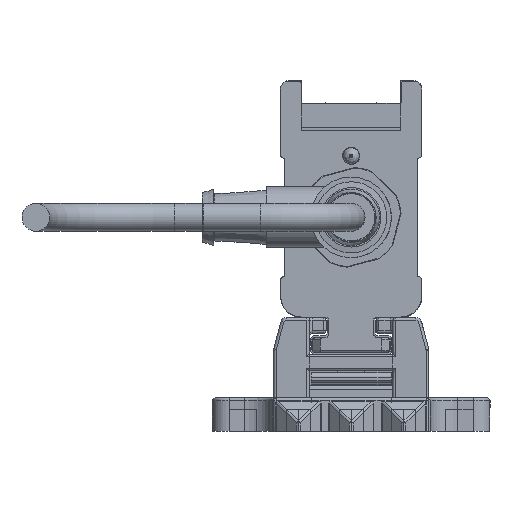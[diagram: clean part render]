
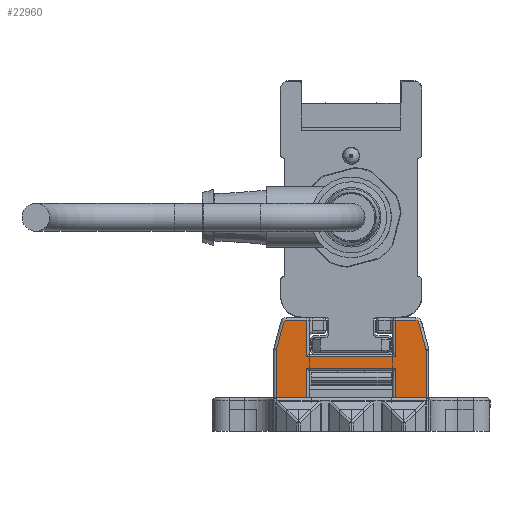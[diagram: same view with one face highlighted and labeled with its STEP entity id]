
A CAD part, left-side view. The second image highlights one B-rep face of the part: STEP entity #22960.
In plain terms, the highlighted planar face has unit normal (-1, 0, 0).
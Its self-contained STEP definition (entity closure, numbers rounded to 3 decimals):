
#22960=ADVANCED_FACE('', (#22970), #22980, .T.);
#93730=AXIS2_PLACEMENT_3D('Ax2Pl3d', #93740, #93750, #93760);
#93970=AXIS2_PLACEMENT_3D('Ax2Pl3d', #93980, #93990, #94000);
#98850=AXIS2_PLACEMENT_3D('Ax2Pl3d', #98860, #98870, #98880);
#103930=AXIS2_PLACEMENT_3D('Ax2Pl3d', #103940, #103950, #103960);
#113610=AXIS2_PLACEMENT_3D('Ax2Pl3d', #113620, #113630, #113640);
#322720=CARTESIAN_POINT('', (-747.669,-1126.345,
331.37));
#93740=CARTESIAN_POINT('HicPkt', (-747.669,-1125.379,
331.111));
#322730=CARTESIAN_POINT('', (-747.669,-1126.379,
331.111));
#322740=CARTESIAN_POINT('', (-747.669,-1125.037,336.255)
);
#322760=CARTESIAN_POINT('', (-747.669,-1125.037,336.255)
);
#322790=CARTESIAN_POINT('', (-747.669,-1124.554,
336.625));
#93980=CARTESIAN_POINT('HicPkt', (-747.669,-1124.554,
336.125));
#323010=CARTESIAN_POINT('', (-747.669,-1126.379,
322.625));
#323020=CARTESIAN_POINT('', (-747.669,-1120.881,
322.625));
#323030=CARTESIAN_POINT('', (-747.669,-1120.881,
322.625));
#323110=CARTESIAN_POINT('', (-747.669,-1104.881,
322.625));
#323120=CARTESIAN_POINT('', (-747.669,-1099.383,
322.625));
#323130=CARTESIAN_POINT('', (-747.669,-1099.383,
322.625));
#98860=CARTESIAN_POINT('HicPkt', (-747.669,-1101.209,
336.125));
#325600=CARTESIAN_POINT('', (-747.669,-1100.726,
336.255));
#325610=CARTESIAN_POINT('', (-747.669,-1101.209,
336.625));
#325620=CARTESIAN_POINT('', (-747.669,-1120.881,
330.025));
#325630=CARTESIAN_POINT('', (-747.669,-1104.881,330.025)
);
#325640=CARTESIAN_POINT('', (-747.669,-1120.881,
330.025));
#325800=CARTESIAN_POINT('', (-747.669,-1120.881,
328.005));
#325810=CARTESIAN_POINT('', (-747.669,-1104.881,
328.005));
#325820=CARTESIAN_POINT('', (-747.669,-1104.881,
328.005));
#325830=CARTESIAN_POINT('', (-747.669,-1120.881,
328.005));
#325850=CARTESIAN_POINT('', (-747.669,-1104.881,
322.625));
#325860=CARTESIAN_POINT('', (-747.669,-1104.881,330.025)
);
#325870=CARTESIAN_POINT('', (-747.669,-1104.881,
336.625));
#326720=CARTESIAN_POINT('', (-747.669,-1104.881,
336.625));
#326730=CARTESIAN_POINT('', (-747.669,-1100.726,
336.255));
#326740=CARTESIAN_POINT('', (-747.669,-1099.417,
331.37));
#326930=CARTESIAN_POINT('', (-747.669,-1099.383,
331.111));
#326940=CARTESIAN_POINT('', (-747.669,-1099.383,
331.111));
#103940=CARTESIAN_POINT('HicPkt', (-747.669,-1100.383,
331.111));
#327750=CARTESIAN_POINT('', (-747.669,-1126.379,
331.111));
#113620=CARTESIAN_POINT('HicPkt', (-747.669,-1124.554,
336.625));
#329550=CARTESIAN_POINT('', (-747.669,-1120.881,
336.625));
#329560=CARTESIAN_POINT('', (-747.669,-1120.881,
336.625));
#329570=CARTESIAN_POINT('', (-747.669,-1120.881,
336.625));
#369010=CIRCLE('Circle', #93730, 1.);
#369050=CIRCLE('Circle', #93970, 0.5);
#369630=CIRCLE('Circle', #98850, 0.5);
#370160=CIRCLE('Circle', #103930, 1.);
#93750=DIRECTION('Axis', (-1.,0.,0.)
);
#93760=DIRECTION('RefDirection', (0.,
0.,-1.));
#517530=DIRECTION('', (0.,0.259,
0.966));
#93990=DIRECTION('Axis', (-1.,0.,0.)
);
#94000=DIRECTION('RefDirection', (0.,
0.,-1.));
#517640=DIRECTION('', (0.,1.,0.));
#517680=DIRECTION('', (0.,1.,0.));
#98870=DIRECTION('Axis', (1.,0.,
0.));
#98880=DIRECTION('RefDirection', (0.,
0.,-1.));
#518870=DIRECTION('', (0.,-1.,0.));
#518970=DIRECTION('', (0.,1.,0.));
#518980=DIRECTION('', (0.,0.,1.));
#519000=DIRECTION('', (0.,0.,-1.));
#519010=DIRECTION('', (0.,0.,-1.));
#519440=DIRECTION('', (0.,-1.,0.));
#519450=DIRECTION('', (0.,-0.259,0.966));
#519540=DIRECTION('', (0.,0.,1.));
#103950=DIRECTION('Axis', (1.,0.,
0.));
#103960=DIRECTION('RefDirection', (0.,
0.,-1.));
#519910=DIRECTION('', (0.,0.,1.));
#113630=DIRECTION('Axis', (-1.,0.,
0.));
#113640=DIRECTION('RefDirection', (0.,
0.,-1.));
#520750=DIRECTION('', (0.,1.,0.));
#520760=DIRECTION('', (0.,0.,1.));
#562200=EDGE_CURVE('', #562210, #562190, #369010, .T.);
#562260=EDGE_CURVE('', #562190, #562240, #562270, .T.);
#562330=EDGE_CURVE('', #562240, #562320, #369050, .T.);
#562780=EDGE_CURVE('', #562770, #562790, #562800, .T.);
#562940=EDGE_CURVE('', #562930, #562950, #562960, .T.);
#567300=EDGE_CURVE('', #567310, #567320, #369630, .T.);
#567350=EDGE_CURVE('', #567360, #567370, #567380, .T.);
#567720=EDGE_CURVE('', #567700, #567730, #567740, .T.);
#567770=EDGE_CURVE('', #562790, #567700, #567780, .T.);
#567810=EDGE_CURVE('', #567730, #562930, #567820, .T.);
#567830=EDGE_CURVE('', #567840, #567360, #567850, .T.);
#569670=EDGE_CURVE('', #567320, #567840, #569680, .T.);
#569740=EDGE_CURVE('', #569750, #567310, #569760, .T.);
#570180=EDGE_CURVE('', #562950, #570190, #570200, .T.);
#570220=EDGE_CURVE('', #570190, #569750, #370160, .T.);
#571930=EDGE_CURVE('', #562770, #562210, #571940, .T.);
#575740=EDGE_CURVE('', #562320, #575750, #575760, .T.);
#575770=EDGE_CURVE('', #567370, #575750, #575780, .T.);
#683540=EDGE_LOOP('Edge_loop', (#683550,#683560,#683570,#683580,#683590,
#683600,#683610,#683620,#683630,#683640,#683650,#683660,#683670,#683680,
#683690,#683700,#683710,#683720));
#22970=FACE_OUTER_BOUND('Face_outer_bound', #683540, .T.);
#562270=LINE('Line', #322760, #765320);
#562800=LINE('Line', #323020, #765430);
#562960=LINE('Line', #323120, #765470);
#567380=LINE('Line', #325620, #766660);
#567740=LINE('Line', #325810, #766760);
#567780=LINE('Line', #325830, #766770);
#567820=LINE('Line', #325850, #766790);
#567850=LINE('Line', #325860, #766800);
#569680=LINE('Line', #326720, #767230);
#569760=LINE('Line', #326730, #767240);
#570200=LINE('Line', #326930, #767330);
#571940=LINE('Line', #327750, #767700);
#575760=LINE('Line', #329550, #768540);
#575780=LINE('Line', #329570, #768550);
#683550=ORIENTED_EDGE('', *, *, #575740, .T.);
#683560=ORIENTED_EDGE('', *, *, #575770, .F.);
#683570=ORIENTED_EDGE('', *, *, #567350, .F.);
#683580=ORIENTED_EDGE('', *, *, #567830, .F.);
#683590=ORIENTED_EDGE('', *, *, #569670, .F.);
#683600=ORIENTED_EDGE('', *, *, #567300, .F.);
#683610=ORIENTED_EDGE('', *, *, #569740, .F.);
#683620=ORIENTED_EDGE('', *, *, #570220, .F.);
#683630=ORIENTED_EDGE('', *, *, #570180, .F.);
#683640=ORIENTED_EDGE('', *, *, #562940, .F.);
#683650=ORIENTED_EDGE('', *, *, #567810, .F.);
#683660=ORIENTED_EDGE('', *, *, #567720, .F.);
#683670=ORIENTED_EDGE('', *, *, #567770, .F.);
#683680=ORIENTED_EDGE('', *, *, #562780, .F.);
#683690=ORIENTED_EDGE('', *, *, #571930, .T.);
#683700=ORIENTED_EDGE('', *, *, #562200, .T.);
#683710=ORIENTED_EDGE('', *, *, #562260, .T.);
#683720=ORIENTED_EDGE('', *, *, #562330, .T.);
#22980=PLANE('Plane', #113610);
#765320=VECTOR('', #517530, 5.057);
#765430=VECTOR('', #517640, 5.498);
#765470=VECTOR('', #517680, 5.498);
#766660=VECTOR('', #518870, 16.);
#766760=VECTOR('', #518970, 16.);
#766770=VECTOR('', #518980, 5.38);
#766790=VECTOR('', #519000, 5.38);
#766800=VECTOR('', #519010, 6.6);
#767230=VECTOR('', #519440, 3.672);
#767240=VECTOR('', #519450, 5.057);
#767330=VECTOR('', #519540, 8.486);
#767700=VECTOR('', #519910, 8.486);
#768540=VECTOR('', #520750, 3.672);
#768550=VECTOR('', #520760, 6.6);
#562190=VERTEX_POINT('', #322720);
#562210=VERTEX_POINT('', #322730);
#562240=VERTEX_POINT('', #322740);
#562320=VERTEX_POINT('', #322790);
#562770=VERTEX_POINT('', #323010);
#562790=VERTEX_POINT('', #323030);
#562930=VERTEX_POINT('', #323110);
#562950=VERTEX_POINT('', #323130);
#567310=VERTEX_POINT('', #325600);
#567320=VERTEX_POINT('', #325610);
#567360=VERTEX_POINT('', #325630);
#567370=VERTEX_POINT('', #325640);
#567700=VERTEX_POINT('', #325800);
#567730=VERTEX_POINT('', #325820);
#567840=VERTEX_POINT('', #325870);
#569750=VERTEX_POINT('', #326740);
#570190=VERTEX_POINT('', #326940);
#575750=VERTEX_POINT('', #329560);
